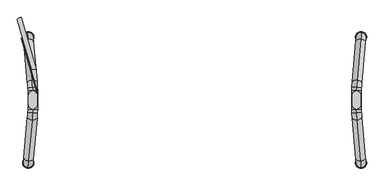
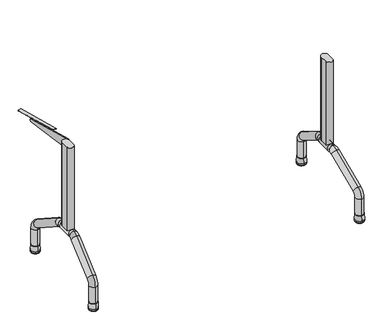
"""IFC4 building model written with IfcOpenShell, lengths in millimetres: furniture geometry, Mesa para refeitório : Mesa para refeitório 150x77cm cód 70474.6."""

from ifc_helpers import new_model, si_unit, point, frame, frame_2d, origin, place, context, project, spatial, polyline, circle_curve, ellipse_curve, trimmed, segment, composite_curve, outline, extrude, source, transform, mapped, element, save
from ifc_brep_helpers import plane_surface, cylinder_surface, revolved_surface, extruded_surface, advanced_brep


def furniture_2471150e(model_context):
    return source(origin(), model_context, "Body", "SolidModel", [
        advanced_brep(
        [(-669.4401581, 37.5, 255.0), (-669.4401581, -37.5, 255.0), (-669.4401581, -37.5, 295.0), (-669.4401581, 37.5, 295.0), (-670.0583573, -51.7441422, 295.0), (-670.0583573, -51.7441422, 255.0), (-670.0583573, 51.7441422, 295.0), (-670.0583573, 51.7441422, 255.0)],
        [
            (0, 1),
            (1, 2, ellipse_curve(frame((-669.4401581, -37.5, 275.0), z_axis=(0.0, 1.0, 0.0), x_axis=(0.0, 0.0, -1.0)), 20.0, 19.923894)),
            (2, 3),
            (3, 0, ellipse_curve(frame((-669.4401581, 37.5, 275.0), z_axis=(0.0, -1.0, 0.0), x_axis=(0.0, 0.0, -1.0)), 20.0, 19.923894)),
            (2, 1, ellipse_curve(frame((-669.4401581, -37.5, 275.0), z_axis=(0.0, 1.0, 0.0), x_axis=(0.0, 0.0, -1.0)), 20.0, 19.923894)),
            (0, 3, ellipse_curve(frame((-669.4401581, 37.5, 275.0), z_axis=(0.0, -1.0, 0.0), x_axis=(0.0, 0.0, -1.0)), 20.0, 19.923894)),
            (4, 5, ellipse_curve(frame((-670.0583573, -51.7441422, 275.0), z_axis=(-0.08663729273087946, -0.9962399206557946, 0.0), x_axis=(0.0, 0.0, -1.0)), 20.0, 19.923894)),
            (5, 4, ellipse_curve(frame((-670.0583573, -51.7441422, 275.0), z_axis=(-0.08663729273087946, -0.9962399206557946, 0.0), x_axis=(0.0, 0.0, -1.0)), 20.0, 19.923894)),
            (4, 2, circle_curve(frame((-833.8513695, -37.5, 295.0), z_axis=(0.0, 0.0, 1.0), x_axis=(1.0, 0.0, 0.0)), 164.4112114)),
            (1, 5, circle_curve(frame((-833.8513695, -37.5, 255.0), z_axis=(0.0, 0.0, -1.0), x_axis=(1.0, 0.0, 0.0)), 164.4112114)),
            (6, 7, ellipse_curve(frame((-670.0583573, 51.7441422, 275.0), z_axis=(-0.08663729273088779, 0.9962399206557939, 0.0), x_axis=(0.0, 0.0, -1.0)), 20.0, 19.923894)),
            (7, 6, ellipse_curve(frame((-670.0583573, 51.7441422, 275.0), z_axis=(-0.08663729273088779, 0.9962399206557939, 0.0), x_axis=(0.0, 0.0, -1.0)), 20.0, 19.923894)),
            (3, 6, circle_curve(frame((-833.8513695, 37.5, 295.0), z_axis=(0.0, 0.0, 1.0), x_axis=(0.996239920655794, 0.08663729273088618, 0.0)), 164.4112114)),
            (7, 0, circle_curve(frame((-833.8513695, 37.5, 255.0), z_axis=(0.0, 0.0, -1.0), x_axis=(0.996239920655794, 0.08663729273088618, 0.0)), 164.4112114)),
        ],
        [
            extruded_surface(trimmed(ellipse_curve(frame((-669.4401581, 37.5, 275.0), z_axis=(0.0, -1.0, 0.0), x_axis=(0.0, 0.0, -1.0)), 20.0, 19.923894), [point((-669.4401581, 37.5, 295.0))], [point((-669.4401581, 37.5, 255.0))], True, "CARTESIAN"), (0.0, -75.0, 0.0), 75.0),
            extruded_surface(trimmed(ellipse_curve(frame((-669.4401581, 37.5, 275.0), z_axis=(0.0, -1.0, 0.0), x_axis=(0.0, 0.0, -1.0)), 20.0, 19.923894), [point((-669.4401581, 37.5, 255.0))], [point((-669.4401581, 37.5, 295.0))], True, "CARTESIAN"), (0.0, -75.0, 0.0), 75.0),
            plane_surface(frame((-670.0583573, -51.7441422, 0.0), z_axis=(-0.08663729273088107, -0.9962399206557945, 0.0), x_axis=(0.0, 0.0, 1.0))),
            revolved_surface(trimmed(ellipse_curve(frame((-669.4401581, -37.5, 275.0), z_axis=(0.0, -1.0, 0.0), x_axis=(0.0, 0.0, -1.0)), 20.0, 19.923894), [point((-669.4401581, -37.5, 295.0))], [point((-669.4401581, -37.5, 255.0))], True, "CARTESIAN"), (-833.8513695, -37.5, 0.0), (0.0, 0.0, 1.0)),
            revolved_surface(trimmed(ellipse_curve(frame((-669.4401581, -37.5, 275.0), z_axis=(0.0, -1.0, 0.0), x_axis=(0.0, 0.0, -1.0)), 20.0, 19.923894), [point((-669.4401581, -37.5, 255.0))], [point((-669.4401581, -37.5, 295.0))], True, "CARTESIAN"), (-833.8513695, -37.5, 0.0), (0.0, 0.0, 1.0)),
            plane_surface(frame((-670.0583573, 51.7441422, 0.0), z_axis=(-0.08663729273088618, 0.996239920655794, 0.0), x_axis=(0.0, 0.0, 1.0))),
            revolved_surface(trimmed(ellipse_curve(frame((-670.0583573, 51.7441422, 275.0), z_axis=(0.08663729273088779, -0.9962399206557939, 0.0), x_axis=(0.0, 0.0, -1.0)), 20.0, 19.923894), [point((-670.0583573, 51.7441422, 295.0))], [point((-670.0583573, 51.7441422, 255.0))], True, "CARTESIAN"), (-833.8513695, 37.5, 0.0), (0.0, 0.0, 1.0)),
            revolved_surface(trimmed(ellipse_curve(frame((-670.0583573, 51.7441422, 275.0), z_axis=(0.08663729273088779, -0.9962399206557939, 0.0), x_axis=(0.0, 0.0, -1.0)), 20.0, 19.923894), [point((-670.0583573, 51.7441422, 255.0))], [point((-670.0583573, 51.7441422, 295.0))], True, "CARTESIAN"), (-833.8513695, 37.5, 0.0), (0.0, 0.0, 1.0)),
        ],
        [
            (0, [[1, 2, 3, 4]]),
            (1, [[-3, 5, -1, 6]]),
            (2, [[7, 8]]),
            (3, [[-7, 9, -2, 10]]),
            (4, [[-8, -10, -5, -9]]),
            (5, [[11, 12]]),
            (6, [[-4, 13, -12, 14]]),
            (7, [[-6, -14, -11, -13]]),
        ],
    ),
        advanced_brep(
        [(-689.9590188, 279.1314153, 43.1183008), (-686.4727891, 239.2836274, 43.1183008), (-689.9590188, 279.1314153, 130.5759348), (-686.4727891, 239.2836274, 130.5759348), (-687.4872272, 250.8787073, 181.5558347), (-672.822711, 83.2625212, 285.9798998), (-670.9843424, 62.2498719, 251.9932999), (-685.6488585, 229.866058, 147.5692348), (-670.0651581, 51.7435473, 295.0), (-670.0651581, 51.7435473, 255.0)],
        [
            (0, 1, circle_curve(frame((-688.215904, 259.2075213, 43.1183008), z_axis=(0.0, 0.0, -1.0), x_axis=(0.08715574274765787, -0.9961946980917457, 0.0)), 20.0)),
            (1, 0, circle_curve(frame((-688.215904, 259.2075213, 43.1183008), z_axis=(0.0, 0.0, -1.0), x_axis=(0.08715574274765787, -0.9961946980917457, 0.0)), 20.0)),
            (0, 2),
            (2, 3, circle_curve(frame((-688.215904, 259.2075213, 130.5759348), z_axis=(0.0, 0.0, -1.0), x_axis=(0.08715574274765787, -0.9961946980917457, 0.0)), 20.0)),
            (3, 1),
            (3, 2, circle_curve(frame((-688.215904, 259.2075213, 130.5759348), z_axis=(0.0, 0.0, -1.0), x_axis=(0.08715574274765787, -0.9961946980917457, 0.0)), 20.0)),
            (4, 5),
            (5, 6, circle_curve(frame((-671.9035267, 72.7561965, 268.9865999), z_axis=(-0.07405318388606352, 0.8464317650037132, -0.5273228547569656), x_axis=(0.04595921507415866, -0.5253162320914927, -0.8496649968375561)), 20.0)),
            (6, 7),
            (7, 4, circle_curve(frame((-686.5680429, 240.3723827, 164.5625347), z_axis=(0.07405318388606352, -0.8464317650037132, 0.5273228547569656), x_axis=(0.04595921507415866, -0.5253162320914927, -0.8496649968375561)), 20.0)),
            (6, 5, circle_curve(frame((-671.9035267, 72.7561965, 268.9865999), z_axis=(-0.07405318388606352, 0.8464317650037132, -0.5273228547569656), x_axis=(0.04595921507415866, -0.5253162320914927, -0.8496649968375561)), 20.0)),
            (4, 7, circle_curve(frame((-686.5680429, 240.3723827, 164.5625347), z_axis=(0.07405318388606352, -0.8464317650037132, 0.5273228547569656), x_axis=(0.04595921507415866, -0.5253162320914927, -0.8496649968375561)), 20.0)),
            (7, 3, circle_curve(frame((-684.7296742, 219.3597334, 130.5759348), z_axis=(-0.9961946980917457, -0.08715574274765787, 0.0), x_axis=(-0.08715574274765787, 0.9961946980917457, 0.0)), 20.0)),
            (2, 4, circle_curve(frame((-684.7296742, 219.3597334, 130.5759348), z_axis=(0.9961946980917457, 0.08715574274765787, 0.0), x_axis=(-0.08715574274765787, 0.9961946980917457, 0.0)), 60.0)),
            (8, 9, circle_curve(frame((-670.0651581, 51.7435473, 275.0), z_axis=(0.08715574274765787, -0.9961946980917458, 0.0), x_axis=(0.0, 0.0, -1.0)), 20.0)),
            (9, 8, circle_curve(frame((-670.0651581, 51.7435473, 275.0), z_axis=(0.08715574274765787, -0.9961946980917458, 0.0), x_axis=(0.0, 0.0, -1.0)), 20.0)),
            (9, 6, circle_curve(frame((-670.0651581, 51.7435473, 235.0), z_axis=(-0.9961946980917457, -0.08715574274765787, 0.0), x_axis=(-0.045959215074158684, 0.5253162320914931, 0.8496649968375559)), 20.0)),
            (5, 8, circle_curve(frame((-670.0651581, 51.7435473, 235.0), z_axis=(0.9961946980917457, 0.08715574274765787, 0.0), x_axis=(-0.045959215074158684, 0.5253162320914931, 0.8496649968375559)), 60.0)),
        ],
        [
            plane_surface(frame((-0.8415623, 319.3449838, 43.1183008), z_axis=(0.0, 0.0, -1.0000000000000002), x_axis=(-0.9961946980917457, -0.08715574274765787, 0.0))),
            cylinder_surface(frame((-688.215904, 259.2075213, 43.1183008), z_axis=(0.0, 0.0, -1.0000000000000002), x_axis=(0.08715574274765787, -0.9961946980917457, 0.0)), 20.0),
            cylinder_surface(frame((-686.5680429, 240.3723827, 164.5625347), z_axis=(-0.07405318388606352, 0.8464317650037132, -0.5273228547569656), x_axis=(0.04595921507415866, -0.5253162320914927, -0.8496649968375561)), 20.0),
            revolved_surface(trimmed(ellipse_curve(frame((-688.215904, 259.2075213, 130.5759348), z_axis=(0.0, 0.0, 1.0000000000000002), x_axis=(0.08715574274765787, -0.9961946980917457, 0.0)), 20.0, 20.0), [point((-686.4727891, 239.2836274, 130.5759348))], [point((-689.9590188, 279.1314153, 130.5759348))], True, "CARTESIAN"), (2.6446674, 279.4971959, 130.5759348), (-0.9961946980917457, -0.08715574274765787, 0.0)),
            revolved_surface(trimmed(ellipse_curve(frame((-688.215904, 259.2075213, 130.5759348), z_axis=(0.0, 0.0, 1.0000000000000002), x_axis=(0.08715574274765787, -0.9961946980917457, 0.0)), 20.0, 20.0), [point((-689.9590188, 279.1314153, 130.5759348))], [point((-686.4727891, 239.2836274, 130.5759348))], True, "CARTESIAN"), (2.6446674, 279.4971959, 130.5759348), (-0.9961946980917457, -0.08715574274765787, 0.0)),
            plane_surface(frame((17.3091835, 111.8810098, 275.0), z_axis=(0.08715574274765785, -0.9961946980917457, 0.0), x_axis=(-0.9961946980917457, -0.08715574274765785, 0.0))),
            revolved_surface(trimmed(ellipse_curve(frame((-671.9035267, 72.7561965, 268.9865999), z_axis=(0.07405318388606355, -0.8464317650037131, 0.527322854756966), x_axis=(0.04595921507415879, -0.5253162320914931, -0.8496649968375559)), 20.0, 20.0), [point((-670.9843424, 62.2498719, 251.9932999))], [point((-672.822711, 83.2625212, 285.9798998))], True, "CARTESIAN"), (17.3091835, 111.8810098, 235.0), (-0.9961946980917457, -0.08715574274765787, 0.0)),
            revolved_surface(trimmed(ellipse_curve(frame((-671.9035267, 72.7561965, 268.9865999), z_axis=(0.07405318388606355, -0.8464317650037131, 0.527322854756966), x_axis=(0.04595921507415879, -0.5253162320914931, -0.8496649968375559)), 20.0, 20.0), [point((-672.822711, 83.2625212, 285.9798998))], [point((-670.9843424, 62.2498719, 251.9932999))], True, "CARTESIAN"), (17.3091835, 111.8810098, 235.0), (-0.9961946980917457, -0.08715574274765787, 0.0)),
        ],
        [
            (0, [[1, 2]]),
            (1, [[3, 4, 5, -1]]),
            (1, [[-5, 6, -3, -2]]),
            (2, [[7, 8, 9, 10]]),
            (2, [[-9, 11, -7, 12]]),
            (3, [[-10, 13, -4, 14]]),
            (4, [[-12, -14, -6, -13]]),
            (5, [[15, 16]]),
            (6, [[-16, 17, -8, 18]]),
            (7, [[-15, -18, -11, -17]]),
        ],
    ),
        advanced_brep(
        [(-686.4727891, -239.2836274, 43.1183008), (-689.9590188, -279.1314153, 43.1183008), (-689.9590188, -279.1314153, 130.5759348), (-686.4727891, -239.2836274, 130.5759348), (-687.4872272, -250.8787073, 181.5558347), (-672.822711, -83.2625212, 285.9798998), (-670.9843424, -62.2498719, 251.9932999), (-685.6488585, -229.866058, 147.5692348), (-670.0651581, -51.7435473, 255.0), (-670.0651581, -51.7435473, 295.0)],
        [
            (0, 1, circle_curve(frame((-688.215904, -259.2075213, 43.1183008), z_axis=(0.0, 0.0, -1.0), x_axis=(-0.08715574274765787, -0.9961946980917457, 0.0)), 20.0)),
            (1, 0, circle_curve(frame((-688.215904, -259.2075213, 43.1183008), z_axis=(0.0, 0.0, -1.0), x_axis=(-0.08715574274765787, -0.9961946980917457, 0.0)), 20.0)),
            (1, 2),
            (2, 3, circle_curve(frame((-688.215904, -259.2075213, 130.5759348), z_axis=(0.0, 0.0, -1.0), x_axis=(-0.08715574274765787, -0.9961946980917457, 0.0)), 20.0)),
            (3, 0),
            (3, 2, circle_curve(frame((-688.215904, -259.2075213, 130.5759348), z_axis=(0.0, 0.0, -1.0), x_axis=(-0.08715574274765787, -0.9961946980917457, 0.0)), 20.0)),
            (4, 5),
            (5, 6, circle_curve(frame((-671.9035267, -72.7561965, 268.9865999), z_axis=(-0.07405318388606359, -0.8464317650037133, -0.5273228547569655), x_axis=(-0.04595921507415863, -0.5253162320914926, 0.8496649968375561)), 20.0)),
            (6, 7),
            (7, 4, circle_curve(frame((-686.5680429, -240.3723827, 164.5625347), z_axis=(0.07405318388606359, 0.8464317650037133, 0.5273228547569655), x_axis=(-0.04595921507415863, -0.5253162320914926, 0.8496649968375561)), 20.0)),
            (6, 5, circle_curve(frame((-671.9035267, -72.7561965, 268.9865999), z_axis=(-0.07405318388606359, -0.8464317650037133, -0.5273228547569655), x_axis=(-0.04595921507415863, -0.5253162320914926, 0.8496649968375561)), 20.0)),
            (4, 7, circle_curve(frame((-686.5680429, -240.3723827, 164.5625347), z_axis=(0.07405318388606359, 0.8464317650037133, 0.5273228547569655), x_axis=(-0.04595921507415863, -0.5253162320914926, 0.8496649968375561)), 20.0)),
            (7, 3, circle_curve(frame((-684.7296742, -219.3597334, 130.5759348), z_axis=(0.9961946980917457, -0.08715574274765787, 0.0), x_axis=(-0.08715574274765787, -0.9961946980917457, 0.0)), 20.0)),
            (2, 4, circle_curve(frame((-684.7296742, -219.3597334, 130.5759348), z_axis=(-0.9961946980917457, 0.08715574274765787, 0.0), x_axis=(-0.08715574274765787, -0.9961946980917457, 0.0)), 60.0)),
            (8, 9, circle_curve(frame((-670.0651581, -51.7435473, 275.0), z_axis=(0.08715574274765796, 0.9961946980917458, 0.0), x_axis=(0.0, 0.0, 1.0)), 20.0)),
            (9, 8, circle_curve(frame((-670.0651581, -51.7435473, 275.0), z_axis=(0.08715574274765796, 0.9961946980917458, 0.0), x_axis=(0.0, 0.0, 1.0)), 20.0)),
            (8, 6, circle_curve(frame((-670.0651581, -51.7435473, 235.0), z_axis=(0.9961946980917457, -0.08715574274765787, 0.0), x_axis=(-0.045959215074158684, -0.5253162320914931, 0.8496649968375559)), 20.0)),
            (5, 9, circle_curve(frame((-670.0651581, -51.7435473, 235.0), z_axis=(-0.9961946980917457, 0.08715574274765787, 0.0), x_axis=(-0.045959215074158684, -0.5253162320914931, 0.8496649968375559)), 60.0)),
        ],
        [
            plane_surface(frame((-0.8415623, -319.3449838, 43.1183008), z_axis=(0.0, 0.0, -1.0000000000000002), x_axis=(-0.9961946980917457, 0.08715574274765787, 0.0))),
            cylinder_surface(frame((-688.215904, -259.2075213, 43.1183008), z_axis=(0.0, 0.0, -1.0000000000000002), x_axis=(-0.08715574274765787, -0.9961946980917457, 0.0)), 20.0),
            cylinder_surface(frame((-686.5680429, -240.3723827, 164.5625347), z_axis=(-0.07405318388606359, -0.8464317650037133, -0.5273228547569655), x_axis=(-0.04595921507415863, -0.5253162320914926, 0.8496649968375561)), 20.0),
            revolved_surface(trimmed(ellipse_curve(frame((-688.215904, -259.2075213, 130.5759348), z_axis=(0.0, 0.0, 1.0000000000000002), x_axis=(-0.08715574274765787, -0.9961946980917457, 0.0)), 20.0, 20.0), [point((-686.4727891, -239.2836274, 130.5759348))], [point((-689.9590188, -279.1314153, 130.5759348))], True, "CARTESIAN"), (2.6446674, -279.4971959, 130.5759348), (0.9961946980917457, -0.08715574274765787, 0.0)),
            revolved_surface(trimmed(ellipse_curve(frame((-688.215904, -259.2075213, 130.5759348), z_axis=(0.0, 0.0, 1.0000000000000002), x_axis=(-0.08715574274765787, -0.9961946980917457, 0.0)), 20.0, 20.0), [point((-689.9590188, -279.1314153, 130.5759348))], [point((-686.4727891, -239.2836274, 130.5759348))], True, "CARTESIAN"), (2.6446674, -279.4971959, 130.5759348), (0.9961946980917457, -0.08715574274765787, 0.0)),
            plane_surface(frame((17.3091835, -111.8810098, 275.0), z_axis=(0.0871557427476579, 0.9961946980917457, 0.0), x_axis=(-0.9961946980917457, 0.0871557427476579, 0.0))),
            revolved_surface(trimmed(ellipse_curve(frame((-671.9035267, -72.7561965, 268.9865999), z_axis=(0.07405318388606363, 0.8464317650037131, 0.527322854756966), x_axis=(-0.04595921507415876, -0.5253162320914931, 0.8496649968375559)), 20.0, 20.0), [point((-670.9843424, -62.2498719, 251.9932999))], [point((-672.822711, -83.2625212, 285.9798998))], True, "CARTESIAN"), (17.3091835, -111.8810098, 235.0), (0.9961946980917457, -0.08715574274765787, 0.0)),
            revolved_surface(trimmed(ellipse_curve(frame((-671.9035267, -72.7561965, 268.9865999), z_axis=(0.07405318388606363, 0.8464317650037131, 0.527322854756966), x_axis=(-0.04595921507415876, -0.5253162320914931, 0.8496649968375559)), 20.0, 20.0), [point((-672.822711, -83.2625212, 285.9798998))], [point((-670.9843424, -62.2498719, 251.9932999))], True, "CARTESIAN"), (17.3091835, -111.8810098, 235.0), (0.9961946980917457, -0.08715574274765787, 0.0)),
        ],
        [
            (0, [[1, 2]]),
            (1, [[3, 4, 5, -2]]),
            (1, [[-5, 6, -3, -1]]),
            (2, [[7, 8, 9, 10]]),
            (2, [[-9, 11, -7, 12]]),
            (3, [[-10, 13, -4, 14]]),
            (4, [[-12, -14, -6, -13]]),
            (5, [[15, 16]]),
            (6, [[-15, 17, -8, 18]]),
            (7, [[-16, -18, -11, -17]]),
        ],
    ),
        extrude(outline(composite_curve([segment(polyline([(-687.5814475, -19.3376613), (-687.5814475, 19.4032698)]), True, "CONTINUOUS"), segment(trimmed(circle_curve(frame_2d((-669.5814475, 19.4032698)), 18.0), [point((-687.5814475, 19.4032698))], [point((-651.5814475, 19.4032698))], False, "CARTESIAN"), True, "CONTINUOUS"), segment(polyline([(-651.5814475, 19.4032698), (-651.5814475, -19.3376613)]), True, "CONTINUOUS"), segment(trimmed(circle_curve(frame_2d((-669.5814475, -19.3376613)), 18.0), [point((-651.5814475, -19.3376613))], [point((-687.5814475, -19.3376613))], False, "CARTESIAN"), True, "CONTINUOUS")], self_intersect=False)), frame((0.0, 0.0, 275.0), z_axis=(0.0, 0.0, 1.0), x_axis=(1.0, 0.0, 0.0)), (0.0, 0.0, 1.0), 467.0),
        advanced_brep(
        [(669.4401581, 37.5, 255.0), (669.4401581, 37.5, 295.0), (669.4401581, -37.5, 295.0), (669.4401581, -37.5, 255.0), (670.0583573, -51.7441422, 295.0), (670.0583573, -51.7441422, 255.0), (670.0583573, 51.7441422, 295.0), (670.0583573, 51.7441422, 255.0)],
        [
            (0, 1, ellipse_curve(frame((669.4401581, 37.5, 275.0), z_axis=(0.0, -1.0, 0.0), x_axis=(0.0, 0.0, -1.0)), 20.0, 19.923894)),
            (1, 2),
            (2, 3, ellipse_curve(frame((669.4401581, -37.5, 275.0), z_axis=(0.0, 1.0, 0.0), x_axis=(0.0, 0.0, -1.0)), 20.0, 19.923894)),
            (3, 0),
            (1, 0, ellipse_curve(frame((669.4401581, 37.5, 275.0), z_axis=(0.0, -1.0, 0.0), x_axis=(0.0, 0.0, -1.0)), 20.0, 19.923894)),
            (3, 2, ellipse_curve(frame((669.4401581, -37.5, 275.0), z_axis=(0.0, 1.0, 0.0), x_axis=(0.0, 0.0, -1.0)), 20.0, 19.923894)),
            (4, 5, ellipse_curve(frame((670.0583573, -51.7441422, 275.0), z_axis=(0.08663729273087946, -0.9962399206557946, 0.0), x_axis=(0.0, 0.0, -1.0)), 20.0, 19.923894)),
            (5, 4, ellipse_curve(frame((670.0583573, -51.7441422, 275.0), z_axis=(0.08663729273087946, -0.9962399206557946, 0.0), x_axis=(0.0, 0.0, -1.0)), 20.0, 19.923894)),
            (5, 3, circle_curve(frame((833.8513695, -37.5, 255.0), z_axis=(0.0, 0.0, -1.0), x_axis=(-1.0, 0.0, 0.0)), 164.4112114)),
            (2, 4, circle_curve(frame((833.8513695, -37.5, 295.0), z_axis=(0.0, 0.0, 1.0), x_axis=(-1.0, 0.0, 0.0)), 164.4112114)),
            (6, 7, ellipse_curve(frame((670.0583573, 51.7441422, 275.0), z_axis=(0.08663729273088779, 0.9962399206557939, 0.0), x_axis=(0.0, 0.0, -1.0)), 20.0, 19.923894)),
            (7, 6, ellipse_curve(frame((670.0583573, 51.7441422, 275.0), z_axis=(0.08663729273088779, 0.9962399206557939, 0.0), x_axis=(0.0, 0.0, -1.0)), 20.0, 19.923894)),
            (0, 7, circle_curve(frame((833.8513695, 37.5, 255.0), z_axis=(0.0, 0.0, -1.0), x_axis=(-0.996239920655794, 0.08663729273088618, 0.0)), 164.4112114)),
            (6, 1, circle_curve(frame((833.8513695, 37.5, 295.0), z_axis=(0.0, 0.0, 1.0), x_axis=(-0.996239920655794, 0.08663729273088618, 0.0)), 164.4112114)),
        ],
        [
            extruded_surface(trimmed(ellipse_curve(frame((669.4401581, -37.5, 275.0), z_axis=(0.0, 1.0, 0.0), x_axis=(0.0, 0.0, -1.0)), 20.0, 19.923894), [point((669.4401581, -37.5, 295.0))], [point((669.4401581, -37.5, 255.0))], True, "CARTESIAN"), (0.0, 75.0, 0.0), 75.0),
            extruded_surface(trimmed(ellipse_curve(frame((669.4401581, -37.5, 275.0), z_axis=(0.0, 1.0, 0.0), x_axis=(0.0, 0.0, -1.0)), 20.0, 19.923894), [point((669.4401581, -37.5, 255.0))], [point((669.4401581, -37.5, 295.0))], True, "CARTESIAN"), (0.0, 75.0, 0.0), 75.0),
            plane_surface(frame((670.0583573, -51.7441422, 0.0), z_axis=(0.08663729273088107, -0.9962399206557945, 0.0), x_axis=(0.0, 0.0, 1.0))),
            revolved_surface(trimmed(ellipse_curve(frame((669.4401581, -37.5, 275.0), z_axis=(0.0, 1.0, 0.0), x_axis=(0.0, 0.0, -1.0)), 20.0, 19.923894), [point((669.4401581, -37.5, 295.0))], [point((669.4401581, -37.5, 255.0))], True, "CARTESIAN"), (833.8513695, -37.5, 0.0), (0.0, 0.0, 1.0)),
            revolved_surface(trimmed(ellipse_curve(frame((669.4401581, -37.5, 275.0), z_axis=(0.0, 1.0, 0.0), x_axis=(0.0, 0.0, -1.0)), 20.0, 19.923894), [point((669.4401581, -37.5, 255.0))], [point((669.4401581, -37.5, 295.0))], True, "CARTESIAN"), (833.8513695, -37.5, 0.0), (0.0, 0.0, 1.0)),
            plane_surface(frame((670.0583573, 51.7441422, 0.0), z_axis=(0.08663729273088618, 0.996239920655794, 0.0), x_axis=(0.0, 0.0, 1.0))),
            revolved_surface(trimmed(ellipse_curve(frame((670.0583573, 51.7441422, 275.0), z_axis=(0.08663729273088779, 0.9962399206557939, 0.0), x_axis=(0.0, 0.0, -1.0)), 20.0, 19.923894), [point((670.0583573, 51.7441422, 295.0))], [point((670.0583573, 51.7441422, 255.0))], True, "CARTESIAN"), (833.8513695, 37.5, 0.0), (0.0, 0.0, 1.0)),
            revolved_surface(trimmed(ellipse_curve(frame((670.0583573, 51.7441422, 275.0), z_axis=(0.08663729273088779, 0.9962399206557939, 0.0), x_axis=(0.0, 0.0, -1.0)), 20.0, 19.923894), [point((670.0583573, 51.7441422, 255.0))], [point((670.0583573, 51.7441422, 295.0))], True, "CARTESIAN"), (833.8513695, 37.5, 0.0), (0.0, 0.0, 1.0)),
        ],
        [
            (0, [[1, 2, 3, 4]]),
            (1, [[5, -4, 6, -2]]),
            (2, [[7, 8]]),
            (3, [[9, -3, 10, -8]]),
            (4, [[-10, -6, -9, -7]]),
            (5, [[11, 12]]),
            (6, [[13, -11, 14, -1]]),
            (7, [[-14, -12, -13, -5]]),
        ],
    ),
        advanced_brep(
        [(689.9590188, 279.1314153, 43.1183008), (686.4727891, 239.2836274, 43.1183008), (686.4727891, 239.2836274, 130.5759348), (689.9590188, 279.1314153, 130.5759348), (687.4872272, 250.8787073, 181.5558347), (685.6488585, 229.866058, 147.5692348), (670.9843424, 62.2498719, 251.9932999), (672.822711, 83.2625212, 285.9798998), (670.0651581, 51.7435473, 295.0), (670.0651581, 51.7435473, 255.0)],
        [
            (0, 1, circle_curve(frame((688.215904, 259.2075213, 43.1183008), z_axis=(0.0, 0.0, -1.0), x_axis=(-0.08715574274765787, -0.9961946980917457, 0.0)), 20.0)),
            (1, 0, circle_curve(frame((688.215904, 259.2075213, 43.1183008), z_axis=(0.0, 0.0, -1.0), x_axis=(-0.08715574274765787, -0.9961946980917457, 0.0)), 20.0)),
            (1, 2),
            (2, 3, circle_curve(frame((688.215904, 259.2075213, 130.5759348), z_axis=(0.0, 0.0, -1.0), x_axis=(-0.08715574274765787, -0.9961946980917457, 0.0)), 20.0)),
            (3, 0),
            (3, 2, circle_curve(frame((688.215904, 259.2075213, 130.5759348), z_axis=(0.0, 0.0, -1.0), x_axis=(-0.08715574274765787, -0.9961946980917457, 0.0)), 20.0)),
            (4, 5, circle_curve(frame((686.5680429, 240.3723827, 164.5625347), z_axis=(-0.07405318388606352, -0.8464317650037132, 0.5273228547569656), x_axis=(-0.04595921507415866, -0.5253162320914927, -0.8496649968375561)), 20.0)),
            (5, 6),
            (6, 7, circle_curve(frame((671.9035267, 72.7561965, 268.9865999), z_axis=(0.07405318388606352, 0.8464317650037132, -0.5273228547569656), x_axis=(-0.04595921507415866, -0.5253162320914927, -0.8496649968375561)), 20.0)),
            (7, 4),
            (5, 4, circle_curve(frame((686.5680429, 240.3723827, 164.5625347), z_axis=(-0.07405318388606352, -0.8464317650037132, 0.5273228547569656), x_axis=(-0.04595921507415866, -0.5253162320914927, -0.8496649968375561)), 20.0)),
            (7, 6, circle_curve(frame((671.9035267, 72.7561965, 268.9865999), z_axis=(0.07405318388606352, 0.8464317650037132, -0.5273228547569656), x_axis=(-0.04595921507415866, -0.5253162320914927, -0.8496649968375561)), 20.0)),
            (4, 3, circle_curve(frame((684.7296742, 219.3597334, 130.5759348), z_axis=(-0.9961946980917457, 0.08715574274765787, 0.0), x_axis=(0.08715574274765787, 0.9961946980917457, 0.0)), 60.0)),
            (2, 5, circle_curve(frame((684.7296742, 219.3597334, 130.5759348), z_axis=(0.9961946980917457, -0.08715574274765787, 0.0), x_axis=(0.08715574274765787, 0.9961946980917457, 0.0)), 20.0)),
            (8, 9, circle_curve(frame((670.0651581, 51.7435473, 275.0), z_axis=(-0.08715574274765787, -0.9961946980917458, 0.0), x_axis=(0.0, 0.0, -1.0)), 20.0)),
            (9, 8, circle_curve(frame((670.0651581, 51.7435473, 275.0), z_axis=(-0.08715574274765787, -0.9961946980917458, 0.0), x_axis=(0.0, 0.0, -1.0)), 20.0)),
            (8, 7, circle_curve(frame((670.0651581, 51.7435473, 235.0), z_axis=(-0.9961946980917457, 0.08715574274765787, 0.0), x_axis=(0.045959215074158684, 0.5253162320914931, 0.8496649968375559)), 60.0)),
            (6, 9, circle_curve(frame((670.0651581, 51.7435473, 235.0), z_axis=(0.9961946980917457, -0.08715574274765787, 0.0), x_axis=(0.045959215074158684, 0.5253162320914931, 0.8496649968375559)), 20.0)),
        ],
        [
            plane_surface(frame((0.8415623, 319.3449838, 43.1183008), z_axis=(0.0, 0.0, -1.0000000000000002), x_axis=(0.9961946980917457, -0.08715574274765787, 0.0))),
            cylinder_surface(frame((688.215904, 259.2075213, 43.1183008), z_axis=(0.0, 0.0, -1.0000000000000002), x_axis=(-0.08715574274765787, -0.9961946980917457, 0.0)), 20.0),
            cylinder_surface(frame((686.5680429, 240.3723827, 164.5625347), z_axis=(0.07405318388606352, 0.8464317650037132, -0.5273228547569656), x_axis=(-0.04595921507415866, -0.5253162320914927, -0.8496649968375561)), 20.0),
            revolved_surface(trimmed(ellipse_curve(frame((688.215904, 259.2075213, 130.5759348), z_axis=(0.0, 0.0, -1.0000000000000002), x_axis=(-0.08715574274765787, -0.9961946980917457, 0.0)), 20.0, 20.0), [point((686.4727891, 239.2836274, 130.5759348))], [point((689.9590188, 279.1314153, 130.5759348))], True, "CARTESIAN"), (-2.6446674, 279.4971959, 130.5759348), (0.9961946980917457, -0.08715574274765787, 0.0)),
            revolved_surface(trimmed(ellipse_curve(frame((688.215904, 259.2075213, 130.5759348), z_axis=(0.0, 0.0, -1.0000000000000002), x_axis=(-0.08715574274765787, -0.9961946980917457, 0.0)), 20.0, 20.0), [point((689.9590188, 279.1314153, 130.5759348))], [point((686.4727891, 239.2836274, 130.5759348))], True, "CARTESIAN"), (-2.6446674, 279.4971959, 130.5759348), (0.9961946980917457, -0.08715574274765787, 0.0)),
            plane_surface(frame((-17.3091835, 111.8810098, 275.0), z_axis=(-0.08715574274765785, -0.9961946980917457, 0.0), x_axis=(0.9961946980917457, -0.08715574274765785, 0.0))),
            revolved_surface(trimmed(ellipse_curve(frame((671.9035267, 72.7561965, 268.9865999), z_axis=(0.07405318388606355, 0.8464317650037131, -0.527322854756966), x_axis=(-0.04595921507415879, -0.5253162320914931, -0.8496649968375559)), 20.0, 20.0), [point((670.9843424, 62.2498719, 251.9932999))], [point((672.822711, 83.2625212, 285.9798998))], True, "CARTESIAN"), (-17.3091835, 111.8810098, 235.0), (0.9961946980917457, -0.08715574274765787, 0.0)),
            revolved_surface(trimmed(ellipse_curve(frame((671.9035267, 72.7561965, 268.9865999), z_axis=(0.07405318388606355, 0.8464317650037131, -0.527322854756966), x_axis=(-0.04595921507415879, -0.5253162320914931, -0.8496649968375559)), 20.0, 20.0), [point((672.822711, 83.2625212, 285.9798998))], [point((670.9843424, 62.2498719, 251.9932999))], True, "CARTESIAN"), (-17.3091835, 111.8810098, 235.0), (0.9961946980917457, -0.08715574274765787, 0.0)),
        ],
        [
            (0, [[1, 2]]),
            (1, [[-2, 3, 4, 5]]),
            (1, [[-1, -5, 6, -3]]),
            (2, [[7, 8, 9, 10]]),
            (2, [[11, -10, 12, -8]]),
            (3, [[13, -4, 14, -7]]),
            (4, [[-14, -6, -13, -11]]),
            (5, [[15, 16]]),
            (6, [[17, -9, 18, -15]]),
            (7, [[-18, -12, -17, -16]]),
        ],
    ),
        advanced_brep(
        [(686.4727891, -239.2836274, 43.1183008), (689.9590188, -279.1314153, 43.1183008), (686.4727891, -239.2836274, 130.5759348), (689.9590188, -279.1314153, 130.5759348), (687.4872272, -250.8787073, 181.5558347), (685.6488585, -229.866058, 147.5692348), (670.9843424, -62.2498719, 251.9932999), (672.822711, -83.2625212, 285.9798998), (670.0651581, -51.7435473, 255.0), (670.0651581, -51.7435473, 295.0)],
        [
            (0, 1, circle_curve(frame((688.215904, -259.2075213, 43.1183008), z_axis=(0.0, 0.0, -1.0), x_axis=(0.08715574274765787, -0.9961946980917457, 0.0)), 20.0)),
            (1, 0, circle_curve(frame((688.215904, -259.2075213, 43.1183008), z_axis=(0.0, 0.0, -1.0), x_axis=(0.08715574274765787, -0.9961946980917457, 0.0)), 20.0)),
            (0, 2),
            (2, 3, circle_curve(frame((688.215904, -259.2075213, 130.5759348), z_axis=(0.0, 0.0, -1.0), x_axis=(0.08715574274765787, -0.9961946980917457, 0.0)), 20.0)),
            (3, 1),
            (3, 2, circle_curve(frame((688.215904, -259.2075213, 130.5759348), z_axis=(0.0, 0.0, -1.0), x_axis=(0.08715574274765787, -0.9961946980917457, 0.0)), 20.0)),
            (4, 5, circle_curve(frame((686.5680429, -240.3723827, 164.5625347), z_axis=(-0.07405318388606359, 0.8464317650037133, 0.5273228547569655), x_axis=(0.04595921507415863, -0.5253162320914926, 0.8496649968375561)), 20.0)),
            (5, 6),
            (6, 7, circle_curve(frame((671.9035267, -72.7561965, 268.9865999), z_axis=(0.07405318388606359, -0.8464317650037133, -0.5273228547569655), x_axis=(0.04595921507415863, -0.5253162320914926, 0.8496649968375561)), 20.0)),
            (7, 4),
            (5, 4, circle_curve(frame((686.5680429, -240.3723827, 164.5625347), z_axis=(-0.07405318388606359, 0.8464317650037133, 0.5273228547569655), x_axis=(0.04595921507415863, -0.5253162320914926, 0.8496649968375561)), 20.0)),
            (7, 6, circle_curve(frame((671.9035267, -72.7561965, 268.9865999), z_axis=(0.07405318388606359, -0.8464317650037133, -0.5273228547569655), x_axis=(0.04595921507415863, -0.5253162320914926, 0.8496649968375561)), 20.0)),
            (4, 3, circle_curve(frame((684.7296742, -219.3597334, 130.5759348), z_axis=(0.9961946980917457, 0.08715574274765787, 0.0), x_axis=(0.08715574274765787, -0.9961946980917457, 0.0)), 60.0)),
            (2, 5, circle_curve(frame((684.7296742, -219.3597334, 130.5759348), z_axis=(-0.9961946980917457, -0.08715574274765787, 0.0), x_axis=(0.08715574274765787, -0.9961946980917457, 0.0)), 20.0)),
            (8, 9, circle_curve(frame((670.0651581, -51.7435473, 275.0), z_axis=(-0.08715574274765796, 0.9961946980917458, 0.0), x_axis=(0.0, 0.0, 1.0)), 20.0)),
            (9, 8, circle_curve(frame((670.0651581, -51.7435473, 275.0), z_axis=(-0.08715574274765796, 0.9961946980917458, 0.0), x_axis=(0.0, 0.0, 1.0)), 20.0)),
            (9, 7, circle_curve(frame((670.0651581, -51.7435473, 235.0), z_axis=(0.9961946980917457, 0.08715574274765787, 0.0), x_axis=(0.045959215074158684, -0.5253162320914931, 0.8496649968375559)), 60.0)),
            (6, 8, circle_curve(frame((670.0651581, -51.7435473, 235.0), z_axis=(-0.9961946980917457, -0.08715574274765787, 0.0), x_axis=(0.045959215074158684, -0.5253162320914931, 0.8496649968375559)), 20.0)),
        ],
        [
            plane_surface(frame((0.8415623, -319.3449838, 43.1183008), z_axis=(0.0, 0.0, -1.0000000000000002), x_axis=(0.9961946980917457, 0.08715574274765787, 0.0))),
            cylinder_surface(frame((688.215904, -259.2075213, 43.1183008), z_axis=(0.0, 0.0, -1.0000000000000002), x_axis=(0.08715574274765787, -0.9961946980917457, 0.0)), 20.0),
            cylinder_surface(frame((686.5680429, -240.3723827, 164.5625347), z_axis=(0.07405318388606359, -0.8464317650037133, -0.5273228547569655), x_axis=(0.04595921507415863, -0.5253162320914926, 0.8496649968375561)), 20.0),
            revolved_surface(trimmed(ellipse_curve(frame((688.215904, -259.2075213, 130.5759348), z_axis=(0.0, 0.0, -1.0000000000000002), x_axis=(0.08715574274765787, -0.9961946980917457, 0.0)), 20.0, 20.0), [point((686.4727891, -239.2836274, 130.5759348))], [point((689.9590188, -279.1314153, 130.5759348))], True, "CARTESIAN"), (-2.6446674, -279.4971959, 130.5759348), (-0.9961946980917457, -0.08715574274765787, 0.0)),
            revolved_surface(trimmed(ellipse_curve(frame((688.215904, -259.2075213, 130.5759348), z_axis=(0.0, 0.0, -1.0000000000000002), x_axis=(0.08715574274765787, -0.9961946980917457, 0.0)), 20.0, 20.0), [point((689.9590188, -279.1314153, 130.5759348))], [point((686.4727891, -239.2836274, 130.5759348))], True, "CARTESIAN"), (-2.6446674, -279.4971959, 130.5759348), (-0.9961946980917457, -0.08715574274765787, 0.0)),
            plane_surface(frame((-17.3091835, -111.8810098, 275.0), z_axis=(-0.0871557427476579, 0.9961946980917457, 0.0), x_axis=(0.9961946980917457, 0.0871557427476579, 0.0))),
            revolved_surface(trimmed(ellipse_curve(frame((671.9035267, -72.7561965, 268.9865999), z_axis=(0.07405318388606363, -0.8464317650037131, -0.527322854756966), x_axis=(0.04595921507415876, -0.5253162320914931, 0.8496649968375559)), 20.0, 20.0), [point((670.9843424, -62.2498719, 251.9932999))], [point((672.822711, -83.2625212, 285.9798998))], True, "CARTESIAN"), (-17.3091835, -111.8810098, 235.0), (-0.9961946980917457, -0.08715574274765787, 0.0)),
            revolved_surface(trimmed(ellipse_curve(frame((671.9035267, -72.7561965, 268.9865999), z_axis=(0.07405318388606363, -0.8464317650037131, -0.527322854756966), x_axis=(0.04595921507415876, -0.5253162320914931, 0.8496649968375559)), 20.0, 20.0), [point((672.822711, -83.2625212, 285.9798998))], [point((670.9843424, -62.2498719, 251.9932999))], True, "CARTESIAN"), (-17.3091835, -111.8810098, 235.0), (-0.9961946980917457, -0.08715574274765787, 0.0)),
        ],
        [
            (0, [[1, 2]]),
            (1, [[-1, 3, 4, 5]]),
            (1, [[-2, -5, 6, -3]]),
            (2, [[7, 8, 9, 10]]),
            (2, [[11, -10, 12, -8]]),
            (3, [[13, -4, 14, -7]]),
            (4, [[-14, -6, -13, -11]]),
            (5, [[15, 16]]),
            (6, [[17, -9, 18, -16]]),
            (7, [[-18, -12, -17, -15]]),
        ],
    ),
        extrude(outline(composite_curve([segment(trimmed(circle_curve(frame_2d((669.5814475, -19.3376613)), 18.0), [point((687.5814475, -19.3376613))], [point((651.5814475, -19.3376613))], False, "CARTESIAN"), True, "CONTINUOUS"), segment(polyline([(651.5814475, -19.3376613), (651.5814475, 19.4032698)]), True, "CONTINUOUS"), segment(trimmed(circle_curve(frame_2d((669.5814475, 19.4032698)), 18.0), [point((651.5814475, 19.4032698))], [point((687.5814475, 19.4032698))], False, "CARTESIAN"), True, "CONTINUOUS"), segment(polyline([(687.5814475, 19.4032698), (687.5814475, -19.3376613)]), True, "CONTINUOUS")], self_intersect=False)), frame((0.0, 0.0, 275.0), z_axis=(0.0, 0.0, 1.0), x_axis=(1.0, 0.0, 0.0)), (0.0, 0.0, 1.0), 467.0),
        advanced_brep(
        [(-688.215904, 280.5839249, 42.9792915), (-688.215904, 281.212521, 42.3931162), (-688.215904, 238.787479, 42.3931162), (-688.215904, 239.4160751, 42.9792915), (-688.215904, 283.125, 15.0433923), (-688.215904, 236.875, 15.0433923), (-688.215904, 283.125, 7.2213749), (-688.215904, 236.875, 7.2213749), (-688.215904, 276.0093092, 0.1056841), (-688.215904, 243.9906908, 0.1056841), (-688.215904, 260.0, 0.1056841), (-688.215904, 260.0, 42.9792915)],
        [
            (0, 1, circle_curve(frame((-688.215904, 280.5839249, 42.3491605), z_axis=(-1.0, 0.0, 0.0), x_axis=(0.0, -1.0, 0.0)), 0.630131)),
            (1, 2, circle_curve(frame((-688.215904, 260.0, 42.3931162), z_axis=(0.0, 0.0, 1.0), x_axis=(0.0, -1.0, 0.0)), 21.212521)),
            (2, 3, circle_curve(frame((-688.215904, 239.4160751, 42.3491605), z_axis=(-1.0, 0.0, 0.0), x_axis=(0.0, 1.0, 0.0)), 0.630131)),
            (3, 0, circle_curve(frame((-688.215904, 260.0, 42.9792915), z_axis=(0.0, 0.0, -1.0), x_axis=(0.0, -1.0, 0.0)), 20.5839249)),
            (2, 1, circle_curve(frame((-688.215904, 260.0, 42.3931162), z_axis=(0.0, 0.0, 1.0), x_axis=(0.0, -1.0, 0.0)), 21.212521)),
            (0, 3, circle_curve(frame((-688.215904, 260.0, 42.9792915), z_axis=(0.0, 0.0, -1.0), x_axis=(0.0, -1.0, 0.0)), 20.5839249)),
            (1, 4),
            (4, 5, circle_curve(frame((-688.215904, 260.0, 15.0433923), z_axis=(0.0, 0.0, 1.0), x_axis=(0.0, -1.0, 0.0)), 23.125)),
            (5, 2),
            (5, 4, circle_curve(frame((-688.215904, 260.0, 15.0433923), z_axis=(0.0, 0.0, 1.0), x_axis=(0.0, -1.0, 0.0)), 23.125)),
            (4, 6),
            (6, 7, circle_curve(frame((-688.215904, 260.0, 7.2213749), z_axis=(0.0, 0.0, 1.0), x_axis=(0.0, -1.0, 0.0)), 23.125)),
            (7, 5),
            (7, 6, circle_curve(frame((-688.215904, 260.0, 7.2213749), z_axis=(0.0, 0.0, 1.0), x_axis=(0.0, -1.0, 0.0)), 23.125)),
            (6, 8, circle_curve(frame((-688.215904, 276.0093092, 7.2213749), z_axis=(-1.0, 0.0, 0.0), x_axis=(0.0, -1.0, 0.0)), 7.1156908)),
            (8, 9, circle_curve(frame((-688.215904, 260.0, 0.1056841), z_axis=(0.0, 0.0, 1.0), x_axis=(0.0, -1.0, 0.0)), 16.0093092)),
            (9, 7, circle_curve(frame((-688.215904, 243.9906908, 7.2213749), z_axis=(-1.0, 0.0, 0.0), x_axis=(0.0, 1.0, 0.0)), 7.1156908)),
            (9, 8, circle_curve(frame((-688.215904, 260.0, 0.1056841), z_axis=(0.0, 0.0, 1.0), x_axis=(0.0, -1.0, 0.0)), 16.0093092)),
            (8, 10),
            (10, 9),
            (11, 0),
            (3, 11),
        ],
        [
            revolved_surface(trimmed(ellipse_curve(frame((-688.215904, 239.4160751, 42.3491605), z_axis=(-1.0, 0.0, 0.0), x_axis=(0.0, 1.0, 0.0)), 0.630131, 0.630131), [point((-688.215904, 238.787479, 42.3931162))], [point((-688.215904, 239.4160751, 42.9792915))], True, "CARTESIAN"), (-688.215904, 260.0, 0.1056841), (0.0, 0.0, 1.0)),
            revolved_surface(polyline([(-688.215904, 236.875, 15.0433923), (-688.215904, 238.787479, 42.3931162)]), (-688.215904, 260.0, 0.1056841), (0.0, 0.0, 1.0)),
            cylinder_surface(frame((-688.215904, 260.0, 0.1056841), z_axis=(0.0, 0.0, 1.0), x_axis=(0.0, -1.0, 0.0)), 23.125),
            revolved_surface(trimmed(ellipse_curve(frame((-688.215904, 243.9906908, 7.2213749), z_axis=(-1.0, 0.0, 0.0), x_axis=(0.0, 1.0, 0.0)), 7.1156908, 7.1156908), [point((-688.215904, 243.9906908, 0.1056841))], [point((-688.215904, 236.875, 7.2213749))], True, "CARTESIAN"), (-688.215904, 260.0, 0.1056841), (0.0, 0.0, 1.0)),
            plane_surface(frame((-688.215904, 260.0, 0.1056841), z_axis=(0.0, 0.0, -1.0), x_axis=(0.0, -1.0, 0.0))),
            plane_surface(frame((-688.215904, 260.0, 42.9792915), z_axis=(0.0, 0.0, 1.0), x_axis=(0.0, -1.0, 0.0))),
        ],
        [
            (0, [[1, 2, 3, 4]]),
            (0, [[-3, 5, -1, 6]]),
            (1, [[7, 8, 9, -2]]),
            (1, [[-9, 10, -7, -5]]),
            (2, [[11, 12, 13, -8]]),
            (2, [[-13, 14, -11, -10]]),
            (3, [[15, 16, 17, -12]]),
            (3, [[-17, 18, -15, -14]]),
            (4, [[19, 20, -16]]),
            (4, [[-20, -19, -18]]),
            (5, [[21, -4, 22]]),
            (5, [[-22, -6, -21]]),
        ],
    ),
        advanced_brep(
        [(-688.215904, -239.4160751, 42.9792915), (-688.215904, -238.787479, 42.3931162), (-688.215904, -281.212521, 42.3931162), (-688.215904, -280.5839249, 42.9792915), (-688.215904, -236.875, 15.0433923), (-688.215904, -283.125, 15.0433923), (-688.215904, -236.875, 7.2213749), (-688.215904, -283.125, 7.2213749), (-688.215904, -243.9906908, 0.1056841), (-688.215904, -276.0093092, 0.1056841), (-688.215904, -260.0, 0.1056841), (-688.215904, -260.0, 42.9792915)],
        [
            (0, 1, circle_curve(frame((-688.215904, -239.4160751, 42.3491605), z_axis=(-1.0, 0.0, 0.0), x_axis=(0.0, -1.0, 0.0)), 0.630131)),
            (1, 2, circle_curve(frame((-688.215904, -260.0, 42.3931162), z_axis=(0.0, 0.0, 1.0), x_axis=(0.0, -1.0, 0.0)), 21.212521)),
            (2, 3, circle_curve(frame((-688.215904, -280.5839249, 42.3491605), z_axis=(-1.0, 0.0, 0.0), x_axis=(0.0, 1.0, 0.0)), 0.630131)),
            (3, 0, circle_curve(frame((-688.215904, -260.0, 42.9792915), z_axis=(0.0, 0.0, -1.0), x_axis=(0.0, -1.0, 0.0)), 20.5839249)),
            (2, 1, circle_curve(frame((-688.215904, -260.0, 42.3931162), z_axis=(0.0, 0.0, 1.0), x_axis=(0.0, -1.0, 0.0)), 21.212521)),
            (0, 3, circle_curve(frame((-688.215904, -260.0, 42.9792915), z_axis=(0.0, 0.0, -1.0), x_axis=(0.0, -1.0, 0.0)), 20.5839249)),
            (1, 4),
            (4, 5, circle_curve(frame((-688.215904, -260.0, 15.0433923), z_axis=(0.0, 0.0, 1.0), x_axis=(0.0, -1.0, 0.0)), 23.125)),
            (5, 2),
            (5, 4, circle_curve(frame((-688.215904, -260.0, 15.0433923), z_axis=(0.0, 0.0, 1.0), x_axis=(0.0, -1.0, 0.0)), 23.125)),
            (4, 6),
            (6, 7, circle_curve(frame((-688.215904, -260.0, 7.2213749), z_axis=(0.0, 0.0, 1.0), x_axis=(0.0, -1.0, 0.0)), 23.125)),
            (7, 5),
            (7, 6, circle_curve(frame((-688.215904, -260.0, 7.2213749), z_axis=(0.0, 0.0, 1.0), x_axis=(0.0, -1.0, 0.0)), 23.125)),
            (6, 8, circle_curve(frame((-688.215904, -243.9906908, 7.2213749), z_axis=(-1.0, 0.0, 0.0), x_axis=(0.0, -1.0, 0.0)), 7.1156908)),
            (8, 9, circle_curve(frame((-688.215904, -260.0, 0.1056841), z_axis=(0.0, 0.0, 1.0), x_axis=(0.0, -1.0, 0.0)), 16.0093092)),
            (9, 7, circle_curve(frame((-688.215904, -276.0093092, 7.2213749), z_axis=(-1.0, 0.0, 0.0), x_axis=(0.0, 1.0, 0.0)), 7.1156908)),
            (9, 8, circle_curve(frame((-688.215904, -260.0, 0.1056841), z_axis=(0.0, 0.0, 1.0), x_axis=(0.0, -1.0, 0.0)), 16.0093092)),
            (8, 10),
            (10, 9),
            (11, 0),
            (3, 11),
        ],
        [
            revolved_surface(trimmed(ellipse_curve(frame((-688.215904, -280.5839249, 42.3491605), z_axis=(-1.0, 0.0, 0.0), x_axis=(0.0, 1.0, 0.0)), 0.630131, 0.630131), [point((-688.215904, -281.212521, 42.3931162))], [point((-688.215904, -280.5839249, 42.9792915))], True, "CARTESIAN"), (-688.215904, -260.0, 0.1056841), (0.0, 0.0, 1.0)),
            revolved_surface(polyline([(-688.215904, -283.125, 15.0433923), (-688.215904, -281.212521, 42.3931162)]), (-688.215904, -260.0, 0.1056841), (0.0, 0.0, 1.0)),
            cylinder_surface(frame((-688.215904, -260.0, 0.1056841), z_axis=(0.0, 0.0, 1.0), x_axis=(0.0, -1.0, 0.0)), 23.125),
            revolved_surface(trimmed(ellipse_curve(frame((-688.215904, -276.0093092, 7.2213749), z_axis=(-1.0, 0.0, 0.0), x_axis=(0.0, 1.0, 0.0)), 7.1156908, 7.1156908), [point((-688.215904, -276.0093092, 0.1056841))], [point((-688.215904, -283.125, 7.2213749))], True, "CARTESIAN"), (-688.215904, -260.0, 0.1056841), (0.0, 0.0, 1.0)),
            plane_surface(frame((-688.215904, -260.0, 0.1056841), z_axis=(0.0, 0.0, -1.0), x_axis=(0.0, -1.0, 0.0))),
            plane_surface(frame((-688.215904, -260.0, 42.9792915), z_axis=(0.0, 0.0, 1.0), x_axis=(0.0, -1.0, 0.0))),
        ],
        [
            (0, [[1, 2, 3, 4]]),
            (0, [[-3, 5, -1, 6]]),
            (1, [[7, 8, 9, -2]]),
            (1, [[-9, 10, -7, -5]]),
            (2, [[11, 12, 13, -8]]),
            (2, [[-13, 14, -11, -10]]),
            (3, [[15, 16, 17, -12]]),
            (3, [[-17, 18, -15, -14]]),
            (4, [[19, 20, -16]]),
            (4, [[-20, -19, -18]]),
            (5, [[21, -4, 22]]),
            (5, [[-22, -6, -21]]),
        ],
    ),
        advanced_brep(
        [(688.215904, 280.5839249, 42.9792915), (688.215904, 239.4160751, 42.9792915), (688.215904, 238.787479, 42.3931162), (688.215904, 281.212521, 42.3931162), (688.215904, 236.875, 15.0433923), (688.215904, 283.125, 15.0433923), (688.215904, 236.875, 7.2213749), (688.215904, 283.125, 7.2213749), (688.215904, 243.9906908, 0.1056841), (688.215904, 276.0093092, 0.1056841), (688.215904, 260.0, 0.1056841), (688.215904, 260.0, 42.9792915)],
        [
            (0, 1, circle_curve(frame((688.215904, 260.0, 42.9792915), z_axis=(0.0, 0.0, -1.0), x_axis=(0.0, -1.0, 0.0)), 20.5839249)),
            (1, 2, circle_curve(frame((688.215904, 239.4160751, 42.3491605), z_axis=(1.0, 0.0, 0.0), x_axis=(0.0, 1.0, 0.0)), 0.630131)),
            (2, 3, circle_curve(frame((688.215904, 260.0, 42.3931162), z_axis=(0.0, 0.0, 1.0), x_axis=(0.0, -1.0, 0.0)), 21.212521)),
            (3, 0, circle_curve(frame((688.215904, 280.5839249, 42.3491605), z_axis=(1.0, 0.0, 0.0), x_axis=(0.0, -1.0, 0.0)), 0.630131)),
            (1, 0, circle_curve(frame((688.215904, 260.0, 42.9792915), z_axis=(0.0, 0.0, -1.0), x_axis=(0.0, -1.0, 0.0)), 20.5839249)),
            (3, 2, circle_curve(frame((688.215904, 260.0, 42.3931162), z_axis=(0.0, 0.0, 1.0), x_axis=(0.0, -1.0, 0.0)), 21.212521)),
            (2, 4),
            (4, 5, circle_curve(frame((688.215904, 260.0, 15.0433923), z_axis=(0.0, 0.0, 1.0), x_axis=(0.0, -1.0, 0.0)), 23.125)),
            (5, 3),
            (5, 4, circle_curve(frame((688.215904, 260.0, 15.0433923), z_axis=(0.0, 0.0, 1.0), x_axis=(0.0, -1.0, 0.0)), 23.125)),
            (4, 6),
            (6, 7, circle_curve(frame((688.215904, 260.0, 7.2213749), z_axis=(0.0, 0.0, 1.0), x_axis=(0.0, -1.0, 0.0)), 23.125)),
            (7, 5),
            (7, 6, circle_curve(frame((688.215904, 260.0, 7.2213749), z_axis=(0.0, 0.0, 1.0), x_axis=(0.0, -1.0, 0.0)), 23.125)),
            (6, 8, circle_curve(frame((688.215904, 243.9906908, 7.2213749), z_axis=(1.0, 0.0, 0.0), x_axis=(0.0, 1.0, 0.0)), 7.1156908)),
            (8, 9, circle_curve(frame((688.215904, 260.0, 0.1056841), z_axis=(0.0, 0.0, 1.0), x_axis=(0.0, -1.0, 0.0)), 16.0093092)),
            (9, 7, circle_curve(frame((688.215904, 276.0093092, 7.2213749), z_axis=(1.0, 0.0, 0.0), x_axis=(0.0, -1.0, 0.0)), 7.1156908)),
            (9, 8, circle_curve(frame((688.215904, 260.0, 0.1056841), z_axis=(0.0, 0.0, 1.0), x_axis=(0.0, -1.0, 0.0)), 16.0093092)),
            (8, 10),
            (10, 9),
            (11, 1),
            (0, 11),
        ],
        [
            revolved_surface(trimmed(ellipse_curve(frame((688.215904, 239.4160751, 42.3491605), z_axis=(-1.0, 0.0, 0.0), x_axis=(0.0, 1.0, 0.0)), 0.630131, 0.630131), [point((688.215904, 238.787479, 42.3931162))], [point((688.215904, 239.4160751, 42.9792915))], True, "CARTESIAN"), (688.215904, 260.0, 0.1056841), (0.0, 0.0, 1.0)),
            revolved_surface(polyline([(688.215904, 236.875, 15.0433923), (688.215904, 238.787479, 42.3931162)]), (688.215904, 260.0, 0.1056841), (0.0, 0.0, 1.0)),
            cylinder_surface(frame((688.215904, 260.0, 0.1056841), z_axis=(0.0, 0.0, 1.0), x_axis=(0.0, -1.0, 0.0)), 23.125),
            revolved_surface(trimmed(ellipse_curve(frame((688.215904, 243.9906908, 7.2213749), z_axis=(-1.0, 0.0, 0.0), x_axis=(0.0, 1.0, 0.0)), 7.1156908, 7.1156908), [point((688.215904, 243.9906908, 0.1056841))], [point((688.215904, 236.875, 7.2213749))], True, "CARTESIAN"), (688.215904, 260.0, 0.1056841), (0.0, 0.0, 1.0)),
            plane_surface(frame((688.215904, 260.0, 0.1056841), z_axis=(0.0, 0.0, -1.0), x_axis=(0.0, -1.0, 0.0))),
            plane_surface(frame((688.215904, 260.0, 42.9792915), z_axis=(0.0, 0.0, 1.0), x_axis=(0.0, -1.0, 0.0))),
        ],
        [
            (0, [[1, 2, 3, 4]]),
            (0, [[5, -4, 6, -2]]),
            (1, [[-3, 7, 8, 9]]),
            (1, [[-6, -9, 10, -7]]),
            (2, [[-8, 11, 12, 13]]),
            (2, [[-10, -13, 14, -11]]),
            (3, [[-12, 15, 16, 17]]),
            (3, [[-14, -17, 18, -15]]),
            (4, [[-16, 19, 20]]),
            (4, [[-18, -20, -19]]),
            (5, [[21, -1, 22]]),
            (5, [[-22, -5, -21]]),
        ],
    ),
        advanced_brep(
        [(688.215904, -239.4160751, 42.9792915), (688.215904, -280.5839249, 42.9792915), (688.215904, -281.212521, 42.3931162), (688.215904, -238.787479, 42.3931162), (688.215904, -283.125, 15.0433923), (688.215904, -236.875, 15.0433923), (688.215904, -283.125, 7.2213749), (688.215904, -236.875, 7.2213749), (688.215904, -276.0093092, 0.1056841), (688.215904, -243.9906908, 0.1056841), (688.215904, -260.0, 0.1056841), (688.215904, -260.0, 42.9792915)],
        [
            (0, 1, circle_curve(frame((688.215904, -260.0, 42.9792915), z_axis=(0.0, 0.0, -1.0), x_axis=(0.0, -1.0, 0.0)), 20.5839249)),
            (1, 2, circle_curve(frame((688.215904, -280.5839249, 42.3491605), z_axis=(1.0, 0.0, 0.0), x_axis=(0.0, 1.0, 0.0)), 0.630131)),
            (2, 3, circle_curve(frame((688.215904, -260.0, 42.3931162), z_axis=(0.0, 0.0, 1.0), x_axis=(0.0, -1.0, 0.0)), 21.212521)),
            (3, 0, circle_curve(frame((688.215904, -239.4160751, 42.3491605), z_axis=(1.0, 0.0, 0.0), x_axis=(0.0, -1.0, 0.0)), 0.630131)),
            (1, 0, circle_curve(frame((688.215904, -260.0, 42.9792915), z_axis=(0.0, 0.0, -1.0), x_axis=(0.0, -1.0, 0.0)), 20.5839249)),
            (3, 2, circle_curve(frame((688.215904, -260.0, 42.3931162), z_axis=(0.0, 0.0, 1.0), x_axis=(0.0, -1.0, 0.0)), 21.212521)),
            (2, 4),
            (4, 5, circle_curve(frame((688.215904, -260.0, 15.0433923), z_axis=(0.0, 0.0, 1.0), x_axis=(0.0, -1.0, 0.0)), 23.125)),
            (5, 3),
            (5, 4, circle_curve(frame((688.215904, -260.0, 15.0433923), z_axis=(0.0, 0.0, 1.0), x_axis=(0.0, -1.0, 0.0)), 23.125)),
            (4, 6),
            (6, 7, circle_curve(frame((688.215904, -260.0, 7.2213749), z_axis=(0.0, 0.0, 1.0), x_axis=(0.0, -1.0, 0.0)), 23.125)),
            (7, 5),
            (7, 6, circle_curve(frame((688.215904, -260.0, 7.2213749), z_axis=(0.0, 0.0, 1.0), x_axis=(0.0, -1.0, 0.0)), 23.125)),
            (6, 8, circle_curve(frame((688.215904, -276.0093092, 7.2213749), z_axis=(1.0, 0.0, 0.0), x_axis=(0.0, 1.0, 0.0)), 7.1156908)),
            (8, 9, circle_curve(frame((688.215904, -260.0, 0.1056841), z_axis=(0.0, 0.0, 1.0), x_axis=(0.0, -1.0, 0.0)), 16.0093092)),
            (9, 7, circle_curve(frame((688.215904, -243.9906908, 7.2213749), z_axis=(1.0, 0.0, 0.0), x_axis=(0.0, -1.0, 0.0)), 7.1156908)),
            (9, 8, circle_curve(frame((688.215904, -260.0, 0.1056841), z_axis=(0.0, 0.0, 1.0), x_axis=(0.0, -1.0, 0.0)), 16.0093092)),
            (8, 10),
            (10, 9),
            (11, 1),
            (0, 11),
        ],
        [
            revolved_surface(trimmed(ellipse_curve(frame((688.215904, -280.5839249, 42.3491605), z_axis=(-1.0, 0.0, 0.0), x_axis=(0.0, 1.0, 0.0)), 0.630131, 0.630131), [point((688.215904, -281.212521, 42.3931162))], [point((688.215904, -280.5839249, 42.9792915))], True, "CARTESIAN"), (688.215904, -260.0, 0.1056841), (0.0, 0.0, 1.0)),
            revolved_surface(polyline([(688.215904, -283.125, 15.0433923), (688.215904, -281.212521, 42.3931162)]), (688.215904, -260.0, 0.1056841), (0.0, 0.0, 1.0)),
            cylinder_surface(frame((688.215904, -260.0, 0.1056841), z_axis=(0.0, 0.0, 1.0), x_axis=(0.0, -1.0, 0.0)), 23.125),
            revolved_surface(trimmed(ellipse_curve(frame((688.215904, -276.0093092, 7.2213749), z_axis=(-1.0, 0.0, 0.0), x_axis=(0.0, 1.0, 0.0)), 7.1156908, 7.1156908), [point((688.215904, -276.0093092, 0.1056841))], [point((688.215904, -283.125, 7.2213749))], True, "CARTESIAN"), (688.215904, -260.0, 0.1056841), (0.0, 0.0, 1.0)),
            plane_surface(frame((688.215904, -260.0, 0.1056841), z_axis=(0.0, 0.0, -1.0), x_axis=(0.0, -1.0, 0.0))),
            plane_surface(frame((688.215904, -260.0, 42.9792915), z_axis=(0.0, 0.0, 1.0), x_axis=(0.0, -1.0, 0.0))),
        ],
        [
            (0, [[1, 2, 3, 4]]),
            (0, [[5, -4, 6, -2]]),
            (1, [[-3, 7, 8, 9]]),
            (1, [[-6, -9, 10, -7]]),
            (2, [[-8, 11, 12, 13]]),
            (2, [[-10, -13, 14, -11]]),
            (3, [[-12, 15, 16, 17]]),
            (3, [[-14, -17, 18, -15]]),
            (4, [[-16, 19, 20]]),
            (4, [[-18, -20, -19]]),
            (5, [[21, -1, 22]]),
            (5, [[-22, -5, -21]]),
        ],
    ),
        extrude(outline(composite_curve([segment(polyline([(0.0, 0.0), (-11.3499079, -59.0370689), (-236.7172151, -15.7100843)]), True, "CONTINUOUS"), segment(trimmed(circle_curve(frame_2d((-235.1976245, -7.8058636)), 8.0489664), [point((-236.7172151, -15.7100843))], [point((-237.1608757, 0.0))], False, "CARTESIAN"), True, "CONTINUOUS"), segment(polyline([(-237.1608757, 0.0), (0.0, 0.0)]), True, "CONTINUOUS")], self_intersect=False)), frame((-651.5529394, 28.1487461, 681.8818171), z_axis=(0.9612616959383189, 0.27563735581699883, 0.0), x_axis=(0.2706805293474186, -0.943975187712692, -0.1887932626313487)), (0.0, 0.0, 1.0), 1.932216),
        extrude(outline(composite_curve([segment(polyline([(-655.6618953, 127.5875081), (-674.3872851, 127.5875081), (-732.9451635, 331.803099)]), True, "CONTINUOUS"), segment(trimmed(circle_curve(frame_2d((-728.138855, 333.1812858)), 5.0), [point((-732.9451635, 331.803099))], [point((-729.5170418, 337.9875943))], False, "CARTESIAN"), True, "CONTINUOUS"), segment(polyline([(-729.5170418, 337.9875943), (-717.0206397, 341.5708799), (-655.6618953, 127.5875081)]), True, "CONTINUOUS")], self_intersect=False)), frame((0.0, 0.0, 740.0), z_axis=(0.0, 0.0, 1.0), x_axis=(1.0, 0.0, 0.0)), (0.0, 0.0, 1.0), 2.0),
    ])


if __name__ == "__main__":
    model = new_model("IFC4")
    model_context = context("Model", 3, world=origin())
    ifc_project = project(units=[si_unit("LENGTHUNIT", "METRE", prefix="MILLI")], contexts=[model_context])
    site = spatial("IfcSite", under=ifc_project)
    building = spatial("IfcBuilding", under=site)
    placement = place(None, origin())
    furniture_shape = furniture_2471150e(model_context)
    element("IfcFurniture", 1, ObjectType="Mesa para refeitório : Mesa para refeitório 150x77cm cód 70474.6", at=placement, inside=building, context=model_context, shape_type="MappedRepresentation", body=[
        mapped(furniture_shape, transform((0.0, 0.0, 0.0), x_axis=(1.0, 0.0, 0.0), y_axis=(0.0, 1.0, 0.0), z_axis=(0.0, 0.0, 1.0))),
    ])
    save(model, "model.ifc")
